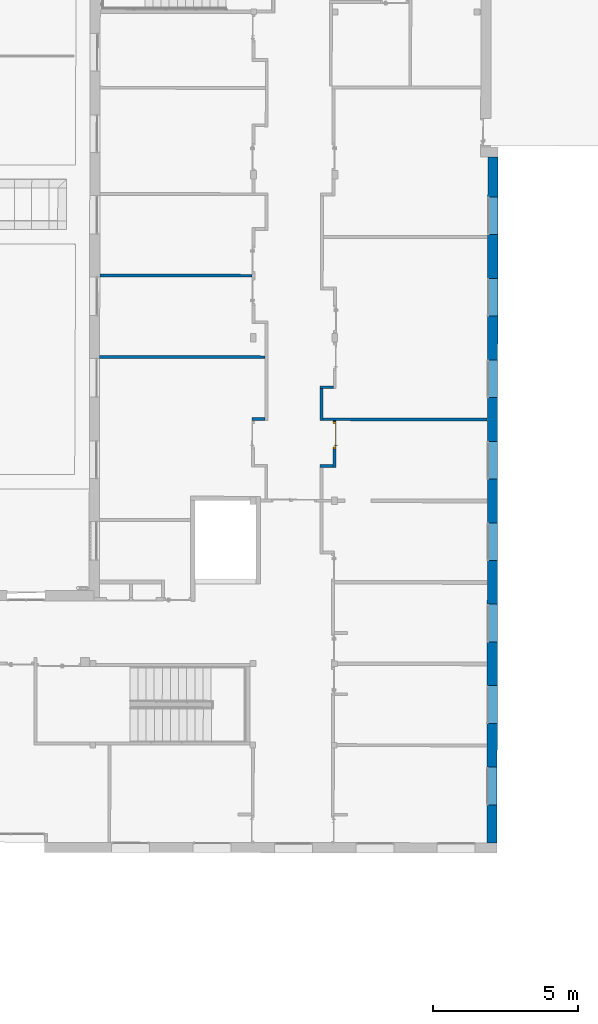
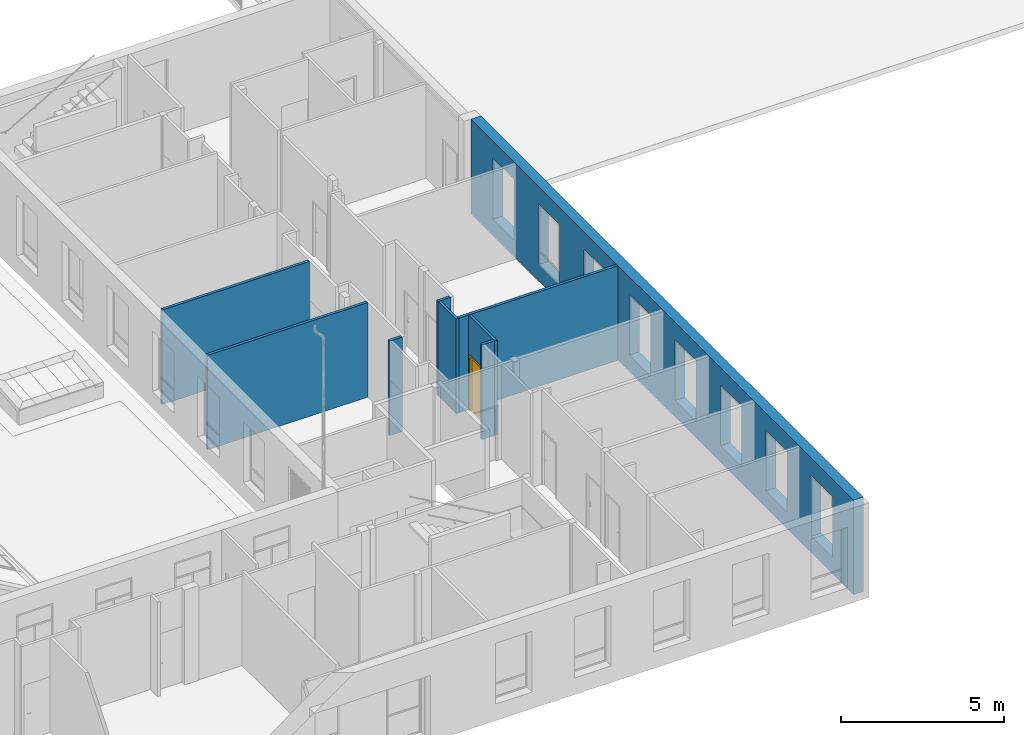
# One storey, part 78 of 101: 9 walls, 1 door, 9 openings.
"""IFC2X3 building model written with IfcOpenShell, lengths in metres."""

from ifc_helpers import new_model, entity, si_unit, converted_unit, derived_unit, direction, frame, frame_2d, origin, place, context, subcontext, project, spatial, polyline, rectangle, outline, extrude, faceted_brep, source, transform, mapped, material, material_list, layer, layer_set, layer_usage, type_object, type_shapes, element, fill, save


model = new_model("IFC2X3")

# Units and contexts
model_context = context("Model", 3, precision=1e-05, world=origin(), true_north=direction((6.123233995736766e-17, 1.0)))
body_context = subcontext(model_context, "Body", "Model", "MODEL_VIEW")
ifc_project = project(units=[si_unit("LENGTHUNIT", "METRE"), si_unit("AREAUNIT", "SQUARE_METRE"), converted_unit("PLANEANGLEUNIT", "DEGREE", entity("IfcPlaneAngleMeasure", 0.017453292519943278), si_unit("PLANEANGLEUNIT", "RADIAN"), dimensions=[0, 0, 0, 0, 0, 0, 0]), derived_unit("THERMALTRANSMITTANCEUNIT", [(si_unit("MASSUNIT", "GRAM", prefix="KILO"), 1), (si_unit("THERMODYNAMICTEMPERATUREUNIT", "KELVIN"), -1), (si_unit("TIMEUNIT", "SECOND"), -3)])], contexts=[model_context])

# Site, building, storey
site_placement = place(None, frame((1253.6752467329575, 2072.143113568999, 91.49999999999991), z_axis=(0.0, 0.0, 1.0), x_axis=(0.7237211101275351, 0.6900925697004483, 0.0)))
site = spatial("IfcSite", under=ifc_project, at=site_placement, Name="Surface", CompositionType="ELEMENT")
building_placement = place(site_placement, origin())
building = spatial("IfcBuilding", under=site, at=building_placement, CompositionType="ELEMENT")
storey_placement = place(building_placement, origin())
storey = spatial("IfcBuildingStorey", under=building, at=storey_placement, Name="0- Rdc", CompositionType="ELEMENT", Elevation=-5.764692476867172e-13)

# Wall, openings
ifc_material_1 = material(Name="OMD_Béton blanc")
ifc_layer_1 = layer(ifc_material_1, 0.35)
ifc_layer_set_1 = layer_set([ifc_layer_1], Name="Mur de base:MUR 35")
ifc_layer_usage_1 = layer_usage(ifc_layer_set_1, "AXIS2", "NEGATIVE", 0.175)
wall_type_1 = type_object("IfcWallType", Name="Mur de base:MUR 35", PredefinedType="STANDARD", material=ifc_layer_set_1)
wall_1_placement = place(storey_placement, frame((195.70103867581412, -12.321560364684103, 0.0), z_axis=(0.0, 0.0, 1.0), x_axis=(-0.6909838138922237, -0.7228702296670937, 0.0)))
wall_1 = element("IfcWallStandardCase", 1, at=wall_1_placement, inside=storey, type_object=wall_type_1, material=ifc_layer_usage_1, Name="Mur de base:MUR 35", ObjectType="Mur de base:MUR 35", context=body_context, shape_type="SweptSolid", body=[
    extrude(rectangle(XDim=23.565000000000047, YDim=0.3500000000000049, at=frame_2d((11.782500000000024, 2.886579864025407e-15), x_axis=(-1.0, 0.0))), origin(), (0.0, 0.0, 1.0), 3.5499999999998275),
])
opening_1_placement = place(wall_1_placement, frame((2.991763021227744, -0.014760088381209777, 0.6200000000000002)))
element("IfcOpeningElement", 2, at=opening_1_placement, cuts=wall_1, Name="Mur de base:MUR 35", ObjectType="Opening", context=body_context, shape_type="SweptSolid", body=[
    extrude(rectangle(XDim=2.2799999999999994, YDim=1.2996959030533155, at=frame_2d((1.7486012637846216e-14, -1.1102230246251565e-16), x_axis=(0.0, 1.0))), frame((-0.9769150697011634, -0.31263991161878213, 1.14), z_axis=(0.0, 1.0, 0.0), x_axis=(-1.0, 0.0, 0.0)), (0.0, 0.0, 1.0), 0.654800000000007),
])
opening_2_placement = place(wall_1_placement, frame((5.791763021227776, -0.014760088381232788, 0.6200000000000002)))
element("IfcOpeningElement", 3, at=opening_2_placement, cuts=wall_1, Name="Mur de base:MUR 35", ObjectType="Opening", context=body_context, shape_type="SweptSolid", body=[
    extrude(rectangle(XDim=2.2799999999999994, YDim=1.2996959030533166, at=frame_2d((-1.8207657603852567e-14, -1.1102230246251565e-16), x_axis=(0.0, 1.0))), frame((-0.9769150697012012, -0.31263991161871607, 1.14), z_axis=(0.0, 1.0, 0.0), x_axis=(-1.0, 0.0, 0.0)), (0.0, 0.0, 1.0), 0.6547999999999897),
])
opening_3_placement = place(wall_1_placement, frame((8.591763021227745, -0.014760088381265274, 0.6200000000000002)))
element("IfcOpeningElement", 4, at=opening_3_placement, cuts=wall_1, Name="Mur de base:MUR 35", ObjectType="Opening", context=body_context, shape_type="SweptSolid", body=[
    extrude(rectangle(XDim=2.2799999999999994, YDim=1.2996959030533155, at=frame_2d((1.7486012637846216e-14, -1.1102230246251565e-16), x_axis=(0.0, 1.0))), frame((-0.9769150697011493, -0.31263991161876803, 1.14), z_axis=(0.0, 1.0, 0.0), x_axis=(-1.0, 0.0, 0.0)), (0.0, 0.0, 1.0), 0.6547999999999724),
])
opening_4_placement = place(wall_1_placement, frame((11.391763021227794, -0.01476008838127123, 0.6200000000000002)))
element("IfcOpeningElement", 5, at=opening_4_placement, cuts=wall_1, Name="Mur de base:MUR 35", ObjectType="Opening", context=body_context, shape_type="SweptSolid", body=[
    extrude(rectangle(XDim=2.2799999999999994, YDim=1.299695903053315, at=frame_2d((-1.9040324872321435e-14, -1.1102230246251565e-16), x_axis=(0.0, 1.0))), frame((-0.9769150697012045, -0.3126399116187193, 1.14), z_axis=(0.0, 1.0, 0.0), x_axis=(-1.0, 0.0, 0.0)), (0.0, 0.0, 1.0), 0.6547999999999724),
])
opening_5_placement = place(wall_1_placement, frame((14.191763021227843, -0.014760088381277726, 0.6200000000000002)))
element("IfcOpeningElement", 6, at=opening_5_placement, cuts=wall_1, Name="Mur de base:MUR 35", ObjectType="Opening", context=body_context, shape_type="SweptSolid", body=[
    extrude(rectangle(XDim=2.2799999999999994, YDim=1.2996959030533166, at=frame_2d((-1.8207657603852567e-14, -1.1102230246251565e-16), x_axis=(0.0, 1.0))), frame((-0.9769150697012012, -0.31263991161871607, 1.14), z_axis=(0.0, 1.0, 0.0), x_axis=(-1.0, 0.0, 0.0)), (0.0, 0.0, 1.0), 0.6547999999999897),
])
opening_6_placement = place(wall_1_placement, frame((16.99176302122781, -0.014760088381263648, 0.6200000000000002)))
element("IfcOpeningElement", 7, at=opening_6_placement, cuts=wall_1, Name="Mur de base:MUR 35", ObjectType="Opening", context=body_context, shape_type="SweptSolid", body=[
    extrude(rectangle(XDim=2.2799999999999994, YDim=1.2996959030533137, at=frame_2d((-1.9817480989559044e-14, -1.1102230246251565e-16), x_axis=(0.0, 1.0))), frame((-0.9769150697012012, -0.31263991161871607, 1.14), z_axis=(0.0, 1.0, 0.0), x_axis=(-1.0, 0.0, 0.0)), (0.0, 0.0, 1.0), 0.6547999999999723),
])
opening_7_placement = place(wall_1_placement, frame((19.791763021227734, -0.014760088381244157, 0.6200000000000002)))
element("IfcOpeningElement", 8, at=opening_7_placement, cuts=wall_1, Name="Mur de base:MUR 35", ObjectType="Opening", context=body_context, shape_type="SweptSolid", body=[
    extrude(rectangle(XDim=2.2799999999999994, YDim=1.2996959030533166, at=frame_2d((1.8207657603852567e-14, -1.1102230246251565e-16), x_axis=(0.0, 1.0))), frame((-0.976915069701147, -0.31263991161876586, 1.14), z_axis=(0.0, 1.0, 0.0), x_axis=(-1.0, 0.0, 0.0)), (0.0, 0.0, 1.0), 0.6547999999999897),
])
opening_8_placement = place(wall_1_placement, frame((22.591763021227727, -0.014760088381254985, 0.6200000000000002)))
element("IfcOpeningElement", 9, at=opening_8_placement, cuts=wall_1, Name="Mur de base:MUR 35", ObjectType="Opening", context=body_context, shape_type="SweptSolid", body=[
    extrude(rectangle(XDim=2.2799999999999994, YDim=1.2996959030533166, at=frame_2d((-1.8207657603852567e-14, -1.1102230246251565e-16), x_axis=(0.0, 1.0))), frame((-0.976915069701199, -0.3126399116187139, 1.14), z_axis=(0.0, 1.0, 0.0), x_axis=(-1.0, 0.0, 0.0)), (0.0, 0.0, 1.0), 0.6547999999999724),
])

# Walls
ifc_layer_2 = layer(ifc_material_1, 0.1)
ifc_layer_set_2 = layer_set([ifc_layer_2], Name="Mur de base:MUR 10")
ifc_layer_usage_2 = layer_usage(ifc_layer_set_2, "AXIS2", "NEGATIVE", 0.05)
wall_type_2 = type_object("IfcWallType", Name="Mur de base:MUR 10", PredefinedType="STANDARD", material=ifc_layer_set_2)
wall_2_placement = place(storey_placement, frame((186.2741872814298, -14.259941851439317, 0.0), z_axis=(0.0, 0.0, 1.0), x_axis=(-0.7228702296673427, 0.6909838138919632, 0.0)))
element("IfcWallStandardCase", 10, at=wall_2_placement, inside=storey, type_object=wall_type_2, material=ifc_layer_usage_2, Name="Mur de base:MUR 10", ObjectType="Mur de base:MUR 10", context=body_context, shape_type="SweptSolid", body=[
    extrude(rectangle(XDim=0.45000000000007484, YDim=0.09999999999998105, at=frame_2d((0.22500000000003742, -5.169475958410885e-16), x_axis=(-1.0, 0.0))), origin(), (0.0, 0.0, 1.0), 3.5499999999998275),
])
ifc_layer_usage_3 = layer_usage(ifc_layer_set_2, "AXIS2", "NEGATIVE", 0.05)
wall_3_placement = place(storey_placement, frame((185.95048999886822, -14.019691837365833, 0.0), z_axis=(0.0, 0.0, 1.0), x_axis=(-0.6909838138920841, -0.7228702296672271, 0.0)))
element("IfcWallStandardCase", 11, at=wall_3_placement, inside=storey, type_object=wall_type_2, material=ifc_layer_usage_3, Name="Mur de base:MUR 10", ObjectType="Mur de base:MUR 10", context=body_context, shape_type="SweptSolid", body=[
    extrude(rectangle(XDim=1.0999999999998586, YDim=0.10000000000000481, at=frame_2d((0.5499999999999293, -9.020562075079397e-17), x_axis=(-1.0, 0.0))), origin(), (0.0, 0.0, 1.0), 3.5499999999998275),
])
ifc_layer_usage_4 = layer_usage(ifc_layer_set_2, "AXIS2", "NEGATIVE", 0.05)
wall_4_placement = place(storey_placement, frame((189.3380886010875, -18.710403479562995, 0.0), z_axis=(0.0, 0.0, 1.0), x_axis=(-0.722870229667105, 0.6909838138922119, 0.0)))
element("IfcWallStandardCase", 12, at=wall_4_placement, inside=storey, type_object=wall_type_2, material=ifc_layer_usage_4, Name="Mur de base:MUR 10", ObjectType="Mur de base:MUR 10", context=body_context, shape_type="SweptSolid", body=[
    extrude(rectangle(XDim=5.640000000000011, YDim=0.10000000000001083, at=frame_2d((2.8200000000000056, -1.987993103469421e-15), x_axis=(-1.0, 0.0))), origin(), (0.0, 0.0, 1.0), 3.5499999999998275),
])
ifc_layer_usage_5 = layer_usage(ifc_layer_set_2, "AXIS2", "NEGATIVE", 0.05)
wall_5_placement = place(storey_placement, frame((186.89661864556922, -9.556594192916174, 0.0), z_axis=(0.0, 0.0, 1.0), x_axis=(-0.7228702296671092, 0.6909838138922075, 0.0)))
element("IfcWallStandardCase", 13, at=wall_5_placement, inside=storey, type_object=wall_type_2, material=ifc_layer_usage_5, Name="Mur de base:MUR 10", ObjectType="Mur de base:MUR 10", context=body_context, shape_type="SweptSolid", body=[
    extrude(outline(polyline([(-0.04872838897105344, -2.6143643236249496), (0.05127162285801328, -2.6143643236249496), (0.0487283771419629, 2.6143886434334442), (-0.051271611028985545, 2.6143400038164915), (-0.04872838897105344, -2.6143643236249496)])), frame((2.6143646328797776, 0.0, 0.0), z_axis=(0.0, 0.0, 1.0), x_axis=(0.0004863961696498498, 0.9999998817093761, 0.0)), (0.0, 0.0, 1.0), 3.5499999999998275),
])
ifc_layer_usage_6 = layer_usage(ifc_layer_set_2, "AXIS2", "NEGATIVE", 0.05)
wall_6_placement = place(storey_placement, frame((185.28715557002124, -11.89157355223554, 0.0), z_axis=(0.0, 0.0, 1.0), x_axis=(-0.7228702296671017, 0.6909838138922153, 0.0)))
element("IfcWallStandardCase", 14, at=wall_6_placement, inside=storey, type_object=wall_type_2, material=ifc_layer_usage_6, Name="Mur de base:MUR 10", ObjectType="Mur de base:MUR 10", context=body_context, shape_type="SweptSolid", body=[
    extrude(outline(polyline([(-0.04861861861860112, -2.8400452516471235), (0.05138139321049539, -2.840045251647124), (0.04861860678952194, 2.8400695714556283), (-0.05138138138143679, 2.840020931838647), (-0.04861861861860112, -2.8400452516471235)])), frame((2.8400455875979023, 0.0, 0.0), z_axis=(0.0, 0.0, 1.0), x_axis=(0.00048639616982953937, 0.999999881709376, 0.0)), (0.0, 0.0, 1.0), 3.5499999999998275),
])
ifc_layer_usage_7 = layer_usage(ifc_layer_set_2, "AXIS2", "NEGATIVE", 0.05)
wall_7_placement = place(storey_placement, frame((183.81536004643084, -13.43128714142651, 0.0), z_axis=(0.0, 0.0, 1.0), x_axis=(-0.7228702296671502, 0.6909838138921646, 0.0)))
element("IfcWallStandardCase", 15, at=wall_7_placement, inside=storey, type_object=wall_type_2, material=ifc_layer_usage_7, Name="Mur de base:MUR 10", ObjectType="Mur de base:MUR 10", context=body_context, shape_type="SweptSolid", body=[
    extrude(rectangle(XDim=0.4500000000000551, YDim=0.10000000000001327, at=frame_2d((0.22500000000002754, -2.7026991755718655e-15), x_axis=(-1.0, 0.0))), origin(), (0.0, 0.0, 1.0), 3.5499999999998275),
])

# Wall, opening, door
ifc_layer_usage_8 = layer_usage(ifc_layer_set_2, "AXIS2", "NEGATIVE", 0.05)
wall_8_placement = place(storey_placement, frame((185.51569940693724, -15.125791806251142, 0.0), z_axis=(0.0, 0.0, 1.0), x_axis=(-0.6909838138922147, -0.7228702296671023, 0.0)))
wall_8 = element("IfcWallStandardCase", 16, at=wall_8_placement, inside=storey, type_object=wall_type_2, material=ifc_layer_usage_8, Name="Mur de base:MUR 10", ObjectType="Mur de base:MUR 10", context=body_context, shape_type="SweptSolid", body=[
    extrude(rectangle(XDim=1.6000000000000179, YDim=0.10000000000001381, at=frame_2d((0.8000000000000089, 7.4593109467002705e-16), x_axis=(-1.0, 0.0))), origin(), (0.0, 0.0, 1.0), 3.5499999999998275),
])
opening_9_placement = place(wall_8_placement, frame((0.03249999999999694, -0.04999999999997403, 0.0)))
opening_9 = element("IfcOpeningElement", 17, at=opening_9_placement, cuts=wall_8, Name="OMD_Porte 1V tunnel:80x204:1", ObjectType="Opening", context=body_context, shape_type="SweptSolid", body=[
    extrude(rectangle(XDim=2.0850000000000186, YDim=0.9349999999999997, at=frame_2d((1.0425000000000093, 0.46749999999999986), x_axis=(1.0, 0.0))), frame((0.0, 0.0, 0.0), z_axis=(0.0, 1.0, 0.0), x_axis=(0.0, 0.0, 1.0)), (0.0, 0.0, 1.0), 0.09999999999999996),
])
ifc_material_2 = material(Name="Porte - Poignée")
ifc_material_3 = material(Name="OMD_Peinture mur")
ifc_material_4 = material(Name="OMD_Bois")
ifc_material_list = material_list([ifc_material_2, ifc_material_3, ifc_material_4])
door_style = type_object("IfcDoorStyle", Name="OMD_Porte 1V tunnel:80x204", ConstructionType="NOTDEFINED", OperationType="NOTDEFINED", ParameterTakesPrecedence=False, Sizeable=False, material=ifc_material_list)
shared_shape = source(origin(), body_context, "Body", "Brep", [
    faceted_brep([(0.21297470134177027, 0.03500000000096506, 1.0077804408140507), (0.20900000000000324, 0.03500000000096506, 1.0069999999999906), (0.208999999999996, 0.03500000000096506, 0.9929999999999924), (0.21297470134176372, 0.03500000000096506, 0.9922195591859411), (0.21702529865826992, 0.03500000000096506, 0.9922195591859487), (0.22100000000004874, 0.03500000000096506, 0.9930000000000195), (0.22100000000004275, 0.03500000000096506, 1.0069999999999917), (0.2170252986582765, 0.03500000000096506, 1.007780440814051), (0.22100000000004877, 0.05748520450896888, 0.9930000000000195), (0.22100000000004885, 0.057485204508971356, 1.0069999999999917), (0.21702529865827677, 0.059131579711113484, 1.007780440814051), (0.23083890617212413, 0.07294518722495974, 1.007780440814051), (0.2291610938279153, 0.07699578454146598, 1.0077804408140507), (0.21297470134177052, 0.060809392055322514, 1.0077804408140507), (0.3206847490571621, 0.0664673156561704, 1.0077804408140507), (0.32354895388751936, 0.06933152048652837, 1.0077804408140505), (0.31588468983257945, 0.07699578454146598, 1.0077804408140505), (0.31420687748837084, 0.07294518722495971, 1.0077804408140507), (0.20900000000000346, 0.06245576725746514, 1.0069999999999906), (0.20900000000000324, 0.06245576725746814, 0.9929999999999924), (0.21297470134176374, 0.06080939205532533, 0.9922195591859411), (0.22916109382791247, 0.07699578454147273, 0.9922195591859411), (0.23083890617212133, 0.07294518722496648, 0.9922195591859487), (0.21702529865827, 0.05913157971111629, 0.9922195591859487), (0.32354895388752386, 0.06933152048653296, 0.9922195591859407), (0.3206847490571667, 0.06646731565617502, 0.9922195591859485), (0.3142068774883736, 0.07294518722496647, 0.9922195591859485), (0.3158846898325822, 0.07699578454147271, 0.9922195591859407), (0.23248528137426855, 0.0689704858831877, 0.9930000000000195), (0.23248528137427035, 0.06897048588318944, 1.0069999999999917), (0.22751471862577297, 0.0809704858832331, 1.0069999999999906), (0.22751471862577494, 0.08097048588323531, 0.9929999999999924), (0.2725228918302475, 0.06897048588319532, 0.9930000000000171), (0.3125605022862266, 0.06897048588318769, 0.9930000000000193), (0.31256050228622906, 0.06897048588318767, 1.0069999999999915), (0.2725228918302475, 0.0689704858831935, 1.0069999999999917), (0.2725228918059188, 0.07512492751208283, 1.0078781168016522), (0.31753106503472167, 0.08097048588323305, 1.0069999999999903), (0.2776005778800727, 0.08097048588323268, 1.0069999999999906), (0.31753106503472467, 0.08097048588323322, 0.9929999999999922), (0.2674452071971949, 0.08097048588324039, 0.9929999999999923), (0.2725228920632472, 0.07512492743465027, 0.9921218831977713), (0.317874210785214, 0.06365677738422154, 0.9930000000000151), (0.32635949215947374, 0.07214205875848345, 0.99299999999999), (0.3263594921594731, 0.07214205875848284, 1.0069999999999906), (0.317874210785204, 0.06365677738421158, 1.0069999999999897)], [[[0, 1, 2, 3, 4, 5, 6, 7]], [[6, 5, 8, 9]], [[9, 10, 7, 6]], [[10, 11, 12, 13, 0, 7]], [[14, 15, 16, 17]], [[13, 18, 1, 0]], [[2, 1, 18, 19]], [[19, 20, 3, 2]], [[20, 21, 22, 23, 4, 3]], [[24, 25, 26, 27]], [[23, 8, 5, 4]], [[9, 8, 28, 29]], [[29, 11, 10, 9]], [[12, 30, 18, 13]], [[19, 18, 30, 31]], [[31, 21, 20, 19]], [[22, 28, 8, 23]], [[29, 28, 32, 33, 34, 35]], [[11, 35, 36]], [[16, 37, 38]], [[30, 12, 38]], [[38, 12, 36]], [[36, 35, 17]], [[17, 16, 36]], [[35, 11, 29]], [[34, 17, 35]], [[11, 36, 12]], [[38, 36, 16]], [[31, 30, 38, 37, 39, 40]], [[40, 41, 21]], [[41, 40, 27]], [[21, 31, 40]], [[39, 27, 40]], [[41, 32, 22]], [[22, 21, 41]], [[26, 32, 41]], [[28, 22, 32]], [[32, 26, 33]], [[26, 41, 27]], [[42, 25, 24, 43, 44, 15, 14, 45]], [[34, 33, 42, 45]], [[45, 14, 17, 34]], [[15, 44, 37, 16]], [[39, 37, 44, 43]], [[43, 24, 27, 39]], [[25, 42, 33, 26]]]),
    faceted_brep([(0.21297470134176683, -0.004999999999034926, 1.0077804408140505), (0.2170252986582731, -0.004999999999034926, 1.007780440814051), (0.2210000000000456, -0.004999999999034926, 1.006999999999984), (0.22100000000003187, -0.004999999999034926, 0.9930000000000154), (0.21702529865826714, -0.004999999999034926, 0.9922195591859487), (0.21297470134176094, -0.004999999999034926, 0.992219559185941), (0.20900000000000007, -0.004999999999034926, 0.992999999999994), (0.20900000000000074, -0.004999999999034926, 1.0069999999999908), (0.20900000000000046, -0.03265095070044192, 1.0069999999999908), (0.21297470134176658, -0.03100457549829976, 1.0077804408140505), (0.22902358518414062, -0.04705345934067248, 1.0077804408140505), (0.2307013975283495, -0.04300286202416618, 1.007780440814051), (0.21702529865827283, -0.02932676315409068, 1.007780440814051), (0.3235218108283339, -0.039389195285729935, 1.0077804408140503), (0.3206576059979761, -0.03652499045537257, 1.0077804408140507), (0.3141797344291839, -0.04300286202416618, 1.0077804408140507), (0.31585754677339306, -0.04705345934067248, 1.0077804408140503), (0.22100000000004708, -0.027680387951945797, 1.0069999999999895), (0.22100000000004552, -0.02768038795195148, 0.9930000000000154), (0.21702529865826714, -0.029326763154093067, 0.9922195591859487), (0.23070139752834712, -0.04300286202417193, 0.9922195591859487), (0.2290235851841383, -0.0470534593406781, 0.992219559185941), (0.21297470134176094, -0.031004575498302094, 0.992219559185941), (0.32065760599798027, -0.036524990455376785, 0.9922195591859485), (0.3235218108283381, -0.03938919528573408, 0.9922195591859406), (0.31585754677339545, -0.047053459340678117, 0.9922195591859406), (0.3141797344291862, -0.04300286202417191, 0.9922195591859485), (0.20899999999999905, -0.032650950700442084, 0.9929999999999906), (0.22737720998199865, -0.051028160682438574, 1.0069999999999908), (0.23234777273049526, -0.03902816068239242, 1.0069999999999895), (0.23234777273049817, -0.03902816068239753, 0.9930000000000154), (0.22737720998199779, -0.051028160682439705, 0.9929999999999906), (0.2673076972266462, -0.05102816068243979, 1.0069999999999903), (0.272440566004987, -0.0451828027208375, 1.0078781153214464), (0.3175039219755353, -0.05102816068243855, 1.0069999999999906), (0.27244056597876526, -0.039028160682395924, 1.0069999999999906), (0.3125333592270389, -0.03902816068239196, 1.0069999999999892), (0.31253335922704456, -0.03902816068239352, 0.9930000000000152), (0.27244056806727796, -0.03902816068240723, 0.9930000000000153), (0.27244056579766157, -0.04518280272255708, 0.9921218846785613), (0.3175039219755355, -0.051028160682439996, 0.9929999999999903), (0.27757344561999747, -0.051028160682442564, 0.9929999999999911), (0.3178470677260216, -0.03371445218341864, 1.0069999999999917), (0.3263323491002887, -0.04219973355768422, 1.0069999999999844), (0.3263323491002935, -0.04219973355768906, 0.9929999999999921), (0.31784706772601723, -0.033714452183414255, 0.9930000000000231)], [[[0, 1, 2, 3, 4, 5, 6, 7]], [[8, 9, 0, 7]], [[9, 10, 11, 12, 1, 0]], [[13, 14, 15, 16]], [[12, 17, 2, 1]], [[3, 2, 17, 18]], [[18, 19, 4, 3]], [[19, 20, 21, 22, 5, 4]], [[23, 24, 25, 26]], [[22, 27, 6, 5]], [[7, 6, 27, 8]], [[28, 10, 9, 8]], [[11, 29, 17, 12]], [[18, 17, 29, 30]], [[30, 20, 19, 18]], [[21, 31, 27, 22]], [[8, 27, 31, 28]], [[32, 33, 10]], [[33, 32, 16]], [[10, 28, 32]], [[34, 16, 32]], [[33, 35, 11]], [[11, 10, 33]], [[15, 35, 33]], [[29, 11, 35]], [[35, 15, 36]], [[15, 33, 16]], [[30, 29, 35, 36, 37, 38]], [[20, 38, 39]], [[25, 40, 41]], [[31, 21, 41]], [[41, 21, 39]], [[39, 38, 26]], [[26, 25, 39]], [[38, 20, 30]], [[37, 26, 38]], [[20, 39, 21]], [[41, 39, 25]], [[28, 31, 41, 40, 34, 32]], [[42, 14, 13, 43, 44, 24, 23, 45]], [[43, 13, 16, 34]], [[14, 42, 36, 15]], [[37, 36, 42, 45]], [[45, 23, 26, 37]], [[24, 44, 40, 25]], [[34, 40, 44, 43]]]),
    faceted_brep([(0.22535276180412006, 0.030000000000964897, 0.8660039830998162), (0.2350000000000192, 0.030000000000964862, 0.8700000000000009), (0.2350000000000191, 0.030000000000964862, 1.0800000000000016), (0.2253527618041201, 0.030000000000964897, 1.0839960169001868), (0.21500000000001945, 0.030000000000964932, 1.0853589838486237), (0.20464723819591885, 0.03000000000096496, 1.0839960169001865), (0.19500000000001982, 0.030000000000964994, 1.0800000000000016), (0.19500000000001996, 0.030000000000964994, 0.8700000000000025), (0.20464723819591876, 0.03000000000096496, 0.866003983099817), (0.21500000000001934, 0.030000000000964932, 0.8646410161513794), (0.22535276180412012, 0.0350000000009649, 1.0839960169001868), (0.2350000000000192, 0.03500000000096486, 1.0800000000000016), (0.23500000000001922, 0.03500000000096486, 0.8700000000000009), (0.22535276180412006, 0.0350000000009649, 0.8660039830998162), (0.21500000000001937, 0.03500000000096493, 0.8646410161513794), (0.20464723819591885, 0.03500000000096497, 0.866003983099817), (0.19500000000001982, 0.035000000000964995, 0.8700000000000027), (0.19500000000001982, 0.035000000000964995, 1.0800000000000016), (0.20464723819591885, 0.03500000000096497, 1.0839960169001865), (0.21500000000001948, 0.03500000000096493, 1.0853589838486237)], [[[0, 1, 2, 3, 4, 5, 6, 7, 8, 9]], [[10, 11, 12, 13, 14, 15, 16, 17, 18, 19]], [[11, 10, 3, 2]], [[3, 10, 19, 4]], [[19, 18, 5, 4]], [[18, 17, 6, 5]], [[7, 6, 17, 16]], [[16, 15, 8, 7]], [[8, 15, 14, 9]], [[14, 13, 0, 9]], [[13, 12, 1, 0]], [[2, 1, 12, 11]]]),
    faceted_brep([(0.22535276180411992, -0.004999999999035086, 0.8660039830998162), (0.2350000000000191, -0.004999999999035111, 0.8700000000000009), (0.23500000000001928, -0.004999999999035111, 1.0800000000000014), (0.22535276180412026, -0.004999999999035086, 1.0839960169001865), (0.2150000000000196, -0.004999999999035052, 1.0853589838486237), (0.20464723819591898, -0.0049999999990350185, 1.0839960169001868), (0.19500000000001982, -0.004999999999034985, 1.0800000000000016), (0.19500000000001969, -0.004999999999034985, 0.8700000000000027), (0.20464723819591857, -0.0049999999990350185, 0.8660039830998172), (0.21500000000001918, -0.004999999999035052, 0.8646410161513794), (0.22535276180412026, 0.0, 1.0839960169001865), (0.2350000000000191, 0.0, 1.0800000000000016), (0.2350000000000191, 0.0, 0.8700000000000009), (0.22535276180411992, 0.0, 0.8660039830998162), (0.21500000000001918, 0.0, 0.8646410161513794), (0.20464723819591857, 0.0, 0.8660039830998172), (0.19500000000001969, 0.0, 0.8700000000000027), (0.19500000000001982, 0.0, 1.0800000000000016), (0.20464723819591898, 0.0, 1.0839960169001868), (0.2150000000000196, 0.0, 1.0853589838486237)], [[[0, 1, 2, 3, 4, 5, 6, 7, 8, 9]], [[10, 11, 12, 13, 14, 15, 16, 17, 18, 19]], [[16, 15, 8, 7]], [[8, 15, 14, 9]], [[14, 13, 0, 9]], [[13, 12, 1, 0]], [[2, 1, 12, 11]], [[11, 10, 3, 2]], [[3, 10, 19, 4]], [[19, 18, 5, 4]], [[18, 17, 6, 5]], [[7, 6, 17, 16]]]),
    faceted_brep([(0.14500000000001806, 0.030000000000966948, 0.0), (0.9900000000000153, 0.030000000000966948, 0.0), (0.9900000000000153, 0.0, 0.0), (0.14500000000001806, 0.0, 0.0), (0.14500000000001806, 0.030000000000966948, 2.04), (0.14500000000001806, 0.0, 2.04), (0.9900000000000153, 0.0, 2.04), (0.9900000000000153, 0.030000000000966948, 2.04)], [[[0, 1, 2, 3]], [[4, 0, 3, 5]], [[5, 3, 2, 6]], [[6, 2, 1, 7]], [[7, 1, 0, 4]], [[4, 5, 6, 7]]]),
    faceted_brep([(0.10000000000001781, 0.0, 0.0), (0.10000000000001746, 0.10000000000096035, 0.0), (0.16000000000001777, 0.10000000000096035, 0.0), (0.16000000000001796, 0.03000000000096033, 0.0), (0.145000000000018, 0.03000000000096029, 0.0), (0.14500000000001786, 0.0, 0.0), (0.145000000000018, 0.0, 2.04), (0.9900000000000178, 0.0, 2.0400000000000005), (0.9900000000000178, 0.0, 0.0), (1.0350000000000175, 0.0, 0.0), (1.0350000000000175, 0.0, 2.085), (0.10000000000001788, 0.0, 2.085), (0.14500000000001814, 0.030000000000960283, 2.04), (0.16000000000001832, 0.03000000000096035, 2.0249999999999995), (0.9750000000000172, 0.03000000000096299, 2.0249999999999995), (0.9750000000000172, 0.03000000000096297, 0.0), (0.9900000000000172, 0.03000000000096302, 0.0), (0.9900000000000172, 0.03000000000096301, 2.0399999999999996), (0.16000000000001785, 0.10000000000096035, 2.0249999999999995), (0.1000000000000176, 0.10000000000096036, 2.085), (1.0350000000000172, 0.10000000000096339, 2.085), (1.0350000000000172, 0.10000000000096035, 0.0), (0.9750000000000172, 0.10000000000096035, 0.0), (0.9750000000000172, 0.10000000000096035, 2.025)], [[[0, 1, 2, 3, 4, 5]], [[5, 6, 7, 8, 9, 10, 11, 0]], [[4, 12, 6, 5]], [[3, 13, 14, 15, 16, 17, 12, 4]], [[2, 18, 13, 3]], [[1, 19, 20, 21, 22, 23, 18, 2]], [[0, 11, 19, 1]], [[10, 9, 21, 20]], [[9, 8, 16, 15, 22, 21]], [[17, 16, 8, 7]], [[23, 22, 15, 14]], [[12, 17, 7, 6]], [[18, 23, 14, 13]], [[11, 10, 20, 19]]]),
])
type_shapes(door_style, [shared_shape])
door_placement = place(opening_9_placement, frame((1.0349999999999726, 0.10000000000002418, 0.0), z_axis=(0.0, 0.0, 1.0), x_axis=(-1.0, 0.0, 0.0)))
door = element("IfcDoor", 18, at=door_placement, inside=storey, type_object=door_style, material=ifc_material_list, Name="OMD_Porte 1V tunnel:80x204", ObjectType="OMD_Porte 1V tunnel:80x204", OverallHeight=2.0850000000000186, OverallWidth=0.9350000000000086, context=body_context, shape_type="MappedRepresentation", body=[
    mapped(shared_shape, transform((0.0, 0.0, 0.0), scale=1.0)),
])
fill(opening_9, door)

# Wall
ifc_layer_usage_9 = layer_usage(ifc_layer_set_2, "AXIS2", "NEGATIVE", 0.05)
wall_9_placement = place(storey_placement, frame((184.40853098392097, -16.211691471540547, 0.0), z_axis=(0.0, 0.0, 1.0), x_axis=(-0.7228702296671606, 0.6909838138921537, 0.0)))
element("IfcWallStandardCase", 19, at=wall_9_placement, inside=storey, type_object=wall_type_2, material=ifc_layer_usage_9, Name="Mur de base:MUR 10", ObjectType="Mur de base:MUR 10", context=body_context, shape_type="SweptSolid", body=[
    extrude(rectangle(XDim=0.4500000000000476, YDim=0.10000000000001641, at=frame_2d((0.2250000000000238, -2.1822821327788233e-15), x_axis=(-1.0, 0.0))), origin(), (0.0, 0.0, 1.0), 3.5499999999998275),
])

save(model, "model.ifc")
